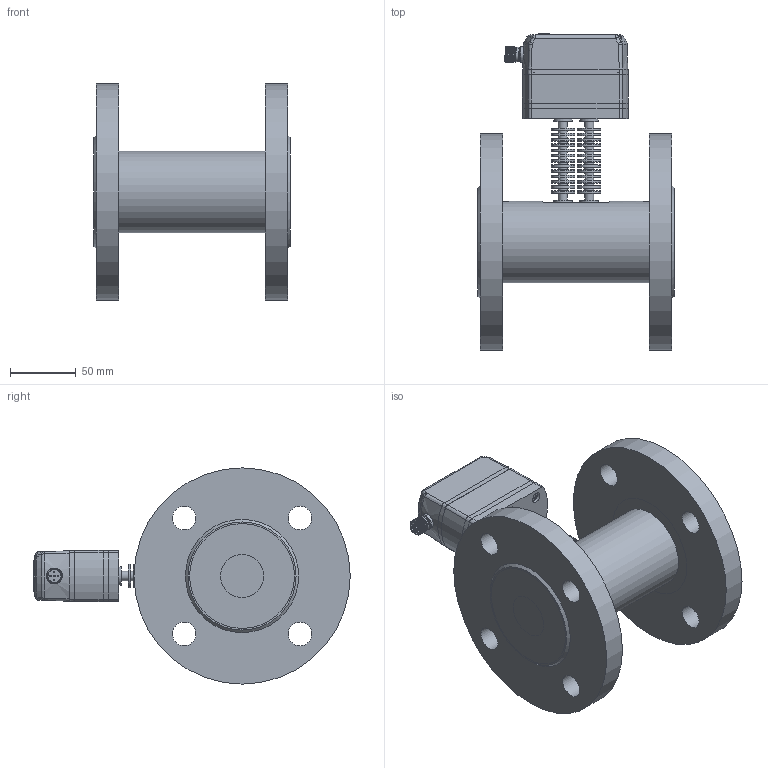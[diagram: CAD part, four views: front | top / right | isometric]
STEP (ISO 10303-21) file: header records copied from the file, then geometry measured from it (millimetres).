
FILE_DESCRIPTION( (''), '2;1');
FILE_NAME( 'QEKH_DN50_flange_cooling-fins_1.step', '2025-04-29T11:18:14+08:00', (''), (''), '', '', '');
FILE_SCHEMA (('AUTOMOTIVE_DESIGN { 1 0 10303 214 3 1 1 1 }'));
Length unit declared in the file: millimetre
Products named in the file (1): QEKH DN50_flange_cooling-fins_1
Bounding box: 150 x 241.4 x 165 mm (x, y, z)
Volume: 1425395.7 mm3; surface area: 241856.4 mm2
Topology: 28 solids, 31 shells, 1696 faces, 4052 edges, 2583 vertices
Faces by surface type: plane 796, cylinder 348, extrusion 239, cone 204, torus 52, bspline 48, sphere 9
Full cylindrical faces by diameter (mm): 1 x10, 2.05 x4, 2.6 x4, 2.7 x5, 2.874 x4, 3 x6, 3.1 x1, 3.3 x8, 3.5 x7, 3.838 x6, 4.2 x2, 4.5 x12, 5 x2, 5.5 x10, 7 x34, 8 x4, 9 x2, 9.8 x2, 10.8 x1, 11 x4, 11.5 x2, 11.992 x2, 12 x8, 14 x6, 14.5 x2, 17 x2, 18 x34, 19.1 x6, 33 x2, 62 x1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
Entity records: 53966 total; most frequent: CARTESIAN_POINT 16795, ORIENTED_EDGE 7212, DIRECTION 6957, EDGE_CURVE 3606, VERTEX_POINT 2498, AXIS2_PLACEMENT_3D 2441, EDGE_LOOP 2284, VECTOR 2075
